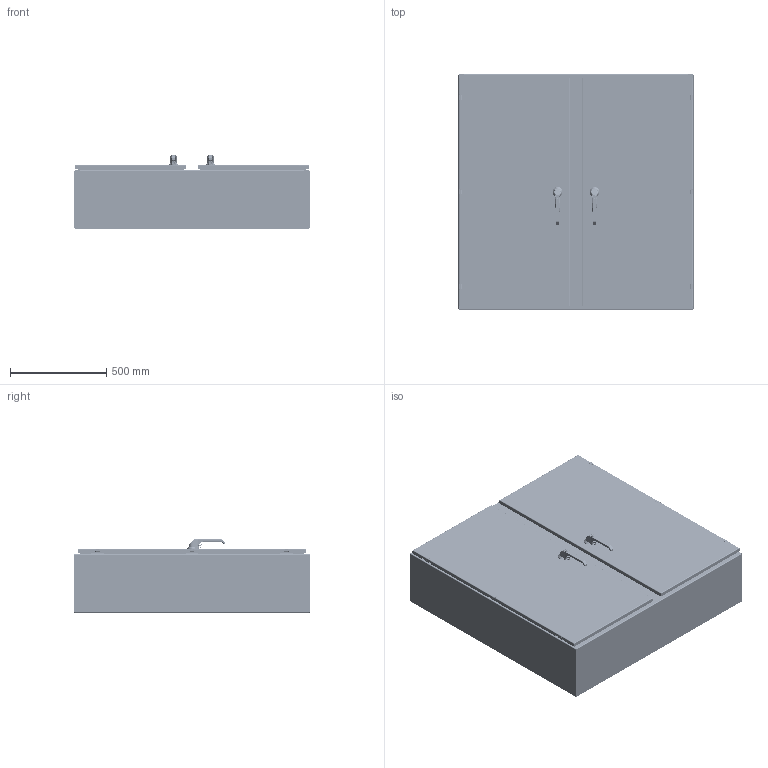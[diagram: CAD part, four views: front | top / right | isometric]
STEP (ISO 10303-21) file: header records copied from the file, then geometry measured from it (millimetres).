
FILE_DESCRIPTION((''),'2;1');
FILE_NAME('MODEL-326_ASM','2021-05-24T11:58:40',('mikek'),('SAGINAW CONTROL & ENGINEERING'),'CREO PARAMETRIC BY PTC INC, 2017260','CREO PARAMETRIC BY PTC INC, 2017260','');
FILE_SCHEMA(('AUTOMOTIVE_DESIGN { 1 0 10303 214 1 1 1 1 }'));
Length unit declared in the file: inch
Products named in the file (72): MODEL-326-BDY; MODEL-326-TP; MODEL-326-BTM; 128377; 100041; 128377_ASM; MODEL-326-CCA-CHNL; MODEL-326-CCA-STIFF; 100067; 128025; 128380; 102535; MODEL-326-CCASSY_ASM; MODEL-326-R-DR; 100837; 100882; 111267; 100954_HANDLE; 100954_HANDLE_INSERT; 100954_SHAFT_CAM; 100954_ADAPTER_CAM; 100954_NUT_CAM; 100954_BASE; 100954_O-RING; 100954_WASHER_SEALING; 100954_NUT_MOUNTING_LARGE; 100954_NUT_MOUNTING_SMALL; 100954_SCREW_SMALL; 100954_INSERT; 100954_PADLOCK_CATCH; 100954_STOP_CAM; 100954_ASM; 102236; 100030; 102236_ASM; MODEL-326-ROD-UPR-RD; 128146; 128145; 128144; 102482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
Assembly tree (183 placements, depth 4):
  MODEL-326_ASM
    MODEL-326-BDY
    MODEL-326-TP
    MODEL-326-BTM
    128377_ASM  x2
      128377
      100041
    MODEL-326-CCASSY_ASM
      MODEL-326-CCA-CHNL
      MODEL-326-CCA-STIFF
      100067  x4
      128025  x2
      128380  x2
      102535  x8
    MODEL-326-RIGHT-DR-ASSY_ASM
      MODEL-326-R-DR
      100837  x5
      100882  x4
      111267
      100954_ASM
        100954_HANDLE
        100954_HANDLE_INSERT
        100954_SHAFT_CAM
        100954_ADAPTER_CAM
        100954_NUT_CAM
        100954_BASE
        100954_O-RING
        100954_WASHER_SEALING
        100954_NUT_MOUNTING_LARGE
        100954_NUT_MOUNTING_SMALL
        100954_SCREW_SMALL
        100954_INSERT
        100954_PADLOCK_CATCH
        100954_STOP_CAM
      102236_ASM
        102236
        100030  x2
      MODEL-326-ROD-UPR-RD_ASM
        MODEL-326-ROD-UPR-RD
        128146
        128145
        128144
        102482  x2
      128143  x2
      112504  x2
      MODEL-326-ROD-LWR-RD_ASM
        MODEL-326-ROD-LWR-RD
        128146
        128145
        128144
        102482  x2
      MODEL-326-GSKT-R-DR
      126392_ASM  x3
        126392
        126397
      126395  x3
      102483  x9
      101226  x3
      101389  x3
      102140  x3
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Bounding box: 1219.2 x 1219.2 x 382.23 mm (x, y, z)
Volume: 15406496.7 mm3; surface area: 13732405.3 mm2
Topology: 199 solids, 205 shells, 14236 faces, 36077 edges, 22277 vertices
Faces by surface type: plane 5331, cylinder 4018, bspline 2015, cone 1192, torus 1188, sphere 492
Entity records: 259315 total; most frequent: CARTESIAN_POINT 81385, ORIENTED_EDGE 25990, DIRECTION 24608, PRESENTATION_STYLE_ASSIGNMENT 13161, STYLED_ITEM 13056, CURVE_STYLE 12995, EDGE_CURVE 12995, AXIS2_PLACEMENT_3D 9093
